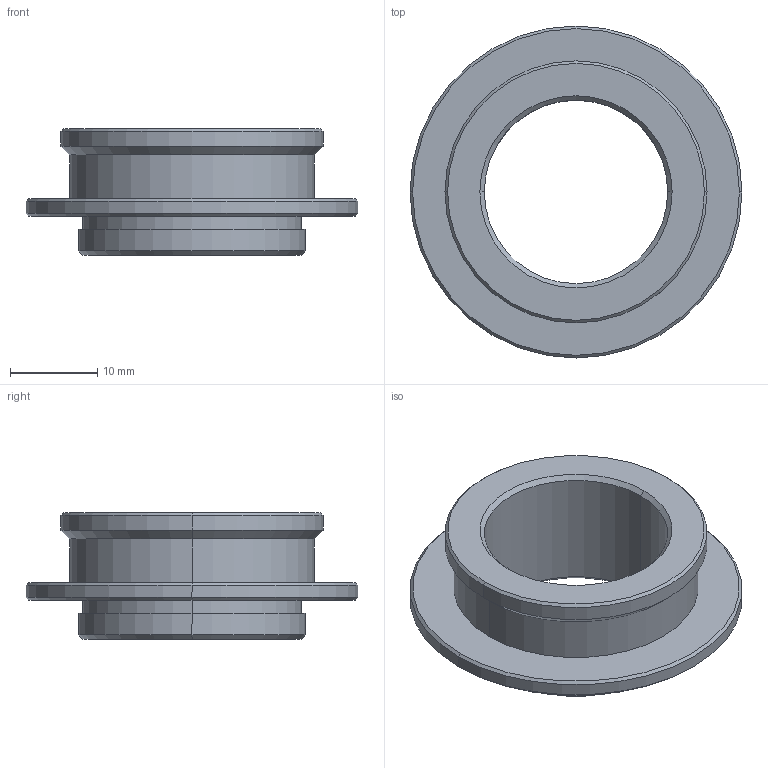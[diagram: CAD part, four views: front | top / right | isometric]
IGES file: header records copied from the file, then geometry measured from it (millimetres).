
Global section: file name: No Iges File Name specified; native system: AutoDesk Inventor R12.0; preprocessor: AutoDesk Inventor Iges Exporter R12.0; date: 20100526.141526; units: millimetre
Bounding box: 38 x 38 x 14.5 mm (x, y, z)
Volume: 4686.6 mm3; surface area: 3941 mm2
Topology: 1 solids, 1 shells, 31 faces, 62 edges, 36 vertices
Faces by surface type: cylinder 10, cone 10, revolution 6, plane 5
